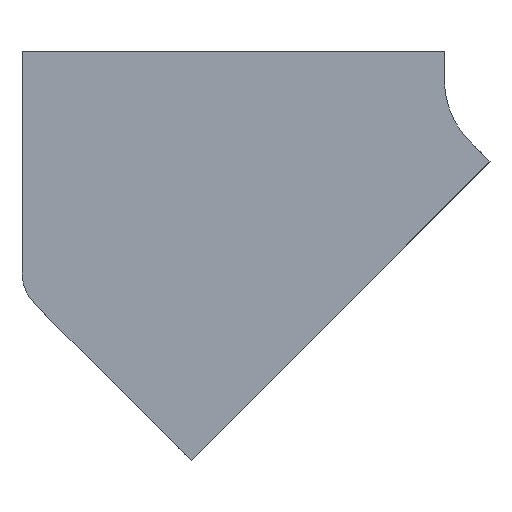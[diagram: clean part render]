
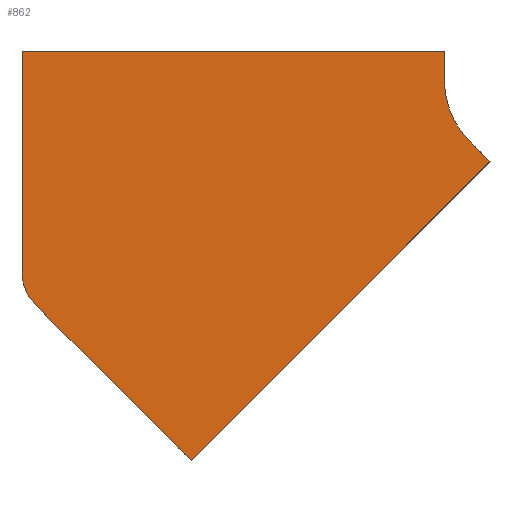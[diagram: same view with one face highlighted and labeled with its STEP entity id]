
A CAD part, front view. The second image highlights one B-rep face of the part: STEP entity #862.
In plain terms, the highlighted planar face has unit normal (0, -1, 0).
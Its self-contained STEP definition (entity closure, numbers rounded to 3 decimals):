
#4 = LINE ( 'NONE', #1038, #1381 ) ;
#49 = VECTOR ( 'NONE', #401, 1000. ) ;
#108 = DIRECTION ( 'NONE',  ( 1., 0., 0. ) ) ;
#125 = DIRECTION ( 'NONE',  ( 0., 0., -1. ) ) ;
#131 = VECTOR ( 'NONE', #1117, 1000. ) ;
#163 = VECTOR ( 'NONE', #108, 1000. ) ;
#214 = VERTEX_POINT ( 'NONE', #445 ) ;
#276 = EDGE_CURVE ( 'NONE', #500, #529, #1001, .T. ) ;
#311 = VERTEX_POINT ( 'NONE', #1430 ) ;
#332 = DIRECTION ( 'NONE',  ( 0., 0., 1. ) ) ;
#337 = CARTESIAN_POINT ( 'NONE',  ( -725., 0., -274.416 ) ) ;
#369 = CIRCLE ( 'NONE', #1267, 62.5 ) ;
#401 = DIRECTION ( 'NONE',  ( -0.707, 0., 0.707 ) ) ;
#417 = VERTEX_POINT ( 'NONE', #337 ) ;
#445 = CARTESIAN_POINT ( 'NONE',  ( -60.104, 0., -116.673 ) ) ;
#455 = CARTESIAN_POINT ( 'NONE',  ( -662.5, 0., -274.416 ) ) ;
#482 = CARTESIAN_POINT ( 'NONE',  ( -60.104, 0., -116.673 ) ) ;
#500 = VERTEX_POINT ( 'NONE', #676 ) ;
#529 = VERTEX_POINT ( 'NONE', #1419 ) ;
#583 = CARTESIAN_POINT ( 'NONE',  ( -484.368, 0., -540.937 ) ) ;
#587 = LINE ( 'NONE', #1238, #131 ) ;
#588 = ORIENTED_EDGE ( 'NONE', *, *, #1472, .F. ) ;
#601 = FACE_OUTER_BOUND ( 'NONE', #1491, .T. ) ;
#615 = EDGE_CURVE ( 'NONE', #529, #214, #4, .T. ) ;
#634 = ORIENTED_EDGE ( 'NONE', *, *, #615, .F. ) ;
#659 = DIRECTION ( 'NONE',  ( 0., -1., 0. ) ) ;
#660 = ORIENTED_EDGE ( 'NONE', *, *, #1523, .F. ) ;
#676 = CARTESIAN_POINT ( 'NONE',  ( -125., 0., 0. ) ) ;
#724 = ORIENTED_EDGE ( 'NONE', *, *, #1671, .F. ) ;
#728 = ORIENTED_EDGE ( 'NONE', *, *, #276, .F. ) ;
#729 = LINE ( 'NONE', #1102, #861 ) ;
#731 = CARTESIAN_POINT ( 'NONE',  ( -725., 0., 40. ) ) ;
#749 = LINE ( 'NONE', #1266, #163 ) ;
#828 = CARTESIAN_POINT ( 'NONE',  ( -706.694, 0., -318.611 ) ) ;
#851 = VERTEX_POINT ( 'NONE', #731 ) ;
#861 = VECTOR ( 'NONE', #1621, 1000. ) ;
#862 = ADVANCED_FACE ( 'NONE', ( #601 ), #1169, .T. ) ;
#1001 = CIRCLE ( 'NONE', #1625, 125. ) ;
#1019 = EDGE_CURVE ( 'NONE', #1585, #417, #369, .T. ) ;
#1038 = CARTESIAN_POINT ( 'NONE',  ( -88.388, 0., -88.388 ) ) ;
#1041 = CARTESIAN_POINT ( 'NONE',  ( 0., 0., 0. ) ) ;
#1102 = CARTESIAN_POINT ( 'NONE',  ( -725., 0., -274.416 ) ) ;
#1109 = DIRECTION ( 'NONE',  ( 0., 1., 0. ) ) ;
#1117 = DIRECTION ( 'NONE',  ( 0., 0., -1. ) ) ;
#1145 = LINE ( 'NONE', #482, #1538 ) ;
#1160 = AXIS2_PLACEMENT_3D ( 'NONE', #1181, #1552, #125 ) ;
#1169 = PLANE ( 'NONE',  #1160 ) ;
#1181 = CARTESIAN_POINT ( 'NONE',  ( 0., 0., 0. ) ) ;
#1201 = ORIENTED_EDGE ( 'NONE', *, *, #1019, .F. ) ;
#1238 = CARTESIAN_POINT ( 'NONE',  ( -125., 0., 40. ) ) ;
#1258 = ORIENTED_EDGE ( 'NONE', *, *, #1581, .F. ) ;
#1266 = CARTESIAN_POINT ( 'NONE',  ( -725., 0., 40. ) ) ;
#1267 = AXIS2_PLACEMENT_3D ( 'NONE', #455, #1109, #332 ) ;
#1293 = LINE ( 'NONE', #1318, #49 ) ;
#1318 = CARTESIAN_POINT ( 'NONE',  ( -484.368, 0., -540.937 ) ) ;
#1372 = VERTEX_POINT ( 'NONE', #583 ) ;
#1381 = VECTOR ( 'NONE', #1612, 1000. ) ;
#1384 = DIRECTION ( 'NONE',  ( -0.707, 0., -0.707 ) ) ;
#1419 = CARTESIAN_POINT ( 'NONE',  ( -88.388, 0., -88.388 ) ) ;
#1430 = CARTESIAN_POINT ( 'NONE',  ( -125., 0., 40. ) ) ;
#1449 = EDGE_CURVE ( 'NONE', #311, #500, #587, .T. ) ;
#1472 = EDGE_CURVE ( 'NONE', #417, #851, #729, .T. ) ;
#1485 = ORIENTED_EDGE ( 'NONE', *, *, #1449, .F. ) ;
#1491 = EDGE_LOOP ( 'NONE', ( #1258, #588, #1201, #724, #660, #634, #728, #1485 ) ) ;
#1523 = EDGE_CURVE ( 'NONE', #214, #1372, #1145, .T. ) ;
#1538 = VECTOR ( 'NONE', #1384, 1000. ) ;
#1552 = DIRECTION ( 'NONE',  ( 0., -1., 0. ) ) ;
#1557 = DIRECTION ( 'NONE',  ( 0., 0., -1. ) ) ;
#1581 = EDGE_CURVE ( 'NONE', #851, #311, #749, .T. ) ;
#1585 = VERTEX_POINT ( 'NONE', #828 ) ;
#1612 = DIRECTION ( 'NONE',  ( 0.707, 0., -0.707 ) ) ;
#1621 = DIRECTION ( 'NONE',  ( 0., 0., 1. ) ) ;
#1625 = AXIS2_PLACEMENT_3D ( 'NONE', #1041, #659, #1557 ) ;
#1671 = EDGE_CURVE ( 'NONE', #1372, #1585, #1293, .T. ) ;
